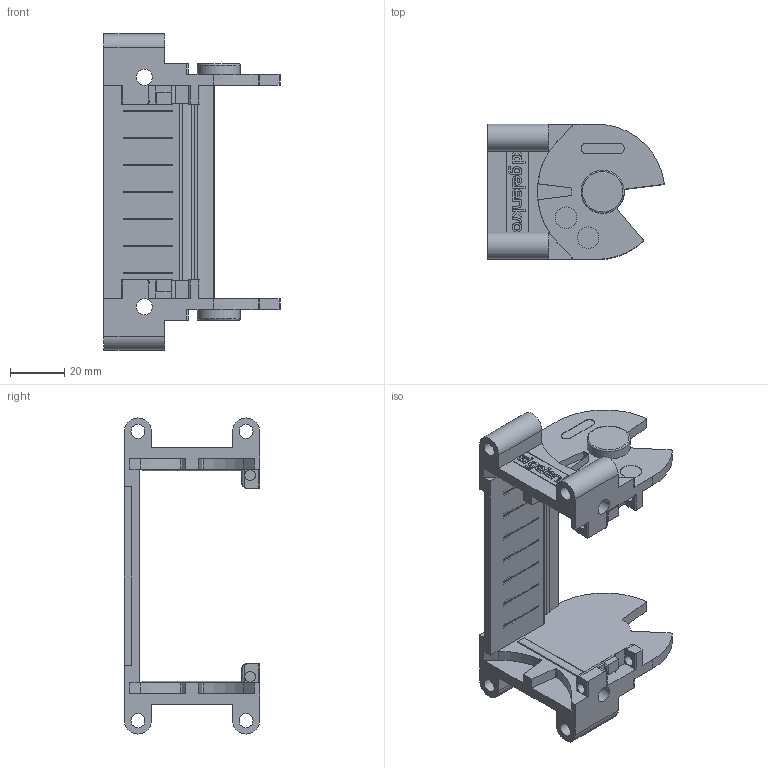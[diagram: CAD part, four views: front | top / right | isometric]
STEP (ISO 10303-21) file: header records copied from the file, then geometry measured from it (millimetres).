
FILE_DESCRIPTION((''),'2;1');
FILE_NAME('C:\Uebbing\PARAMETERKETTEN\KOLIBRI\Kol_50_095_5\Kol_50_095_5_SFA_Zapfen.stp','2015-06-24T14:02:47',('Uebbing'),(''),'Autodesk Inventor 10','Autodesk Inventor 10','');
FILE_SCHEMA(('AUTOMOTIVE_DESIGN { 1 0 10303 214 1 1 1 1 }'));
Length unit declared in the file: millimetre
Products named in the file (1): Kol_50_095_5_SFA_Zapfen
Bounding box: 65.28 x 50 x 117 mm (x, y, z)
Volume: 44667.7 mm3; surface area: 29685 mm2
Topology: 1 solids, 2 shells, 379 faces, 1066 edges, 701 vertices
Faces by surface type: plane 190, bspline 106, cylinder 82, torus 1
Full cylindrical faces by diameter (mm): 2.011 x1, 3.531 x1, 4 x2, 5.2 x4, 6 x1, 8 x2, 16 x1
Entity records: 12712 total; most frequent: CARTESIAN_POINT 3066, ORIENTED_EDGE 2086, DIRECTION 1823, EDGE_CURVE 1043, VECTOR 795, LINE 795, VERTEX_POINT 696, AXIS2_PLACEMENT_3D 514
